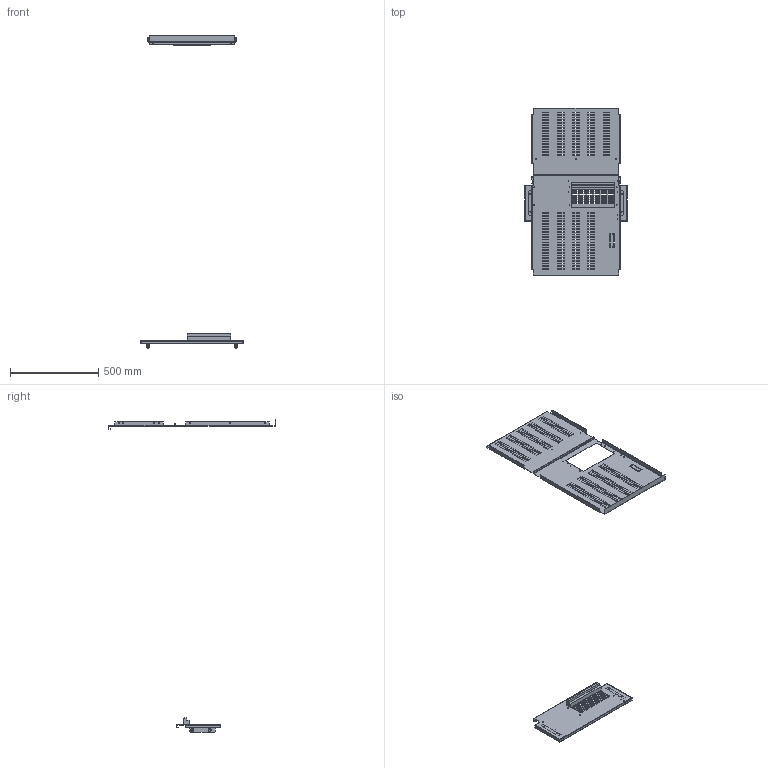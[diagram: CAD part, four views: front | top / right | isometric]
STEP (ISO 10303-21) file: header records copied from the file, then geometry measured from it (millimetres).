
FILE_DESCRIPTION(('CAx-IF Rec.Pracs.---Model Styling and Organization---1.2---2011-12-15','CAx-IF Rec.Pracs.---Geometric and Assembly Validation Properties---4.1---2014-06-16','CAx-IF Rec.Pracs.---PMI Polyline Presentation---2.0---2013-05-24'),'2;1');
FILE_NAME('R5M2UBFRNG12 (2200x600x(400+800)) (7).stp','2021-05-05T12:07:11+03:00',(''),(''),'STEP Interface 4.4 by CT CoreTechnologie','3D_Evolution4.4 by CT CoreTechnologie','');
FILE_SCHEMA(('AUTOMOTIVE_DESIGN { 1 0 10303 214 1 1 1 1 }'));
Length unit declared in the file: millimetre
Products named in the file (9): R5M2UBFR10 (2200õ600õ; RB.0837.00.00.0_-01; RB.0792.00.00.0_-00; RB.0834.00.00.1_-00; M8x16-DIN 6921_thread; M8-DIN 6923 (CM100800)_thread; RB.0836.00.00.0; RB.0835.00.00.0_-00; RB.0837.00.00.0_-00
Assembly tree (14 placements, depth 2):
  R5M2UBFR10 (2200õ600õ
    RB.0837.00.00.0_-01
    RB.0792.00.00.0_-00
    RB.0834.00.00.1_-00
    M8x16-DIN 6921_thread  x4
    M8-DIN 6923 (CM100800)_thread  x4
    RB.0836.00.00.0
    RB.0835.00.00.0_-00
    RB.0837.00.00.0_-00
Bounding box: 580 x 945.5 x 1767 mm (x, y, z)
Surface area: 1417717.3 mm2 (no closed solid volume)
Topology: 0 solids, 14 shells, 1592 faces, 4335 edges, 2769 vertices
Faces by surface type: plane 1124, bspline 264, cylinder 204
Entity records: 44715 total; most frequent: CARTESIAN_POINT 9003, ORIENTED_EDGE 7478, DIRECTION 6561, EDGE_CURVE 3741, VECTOR 3307, LINE 3307, VERTEX_POINT 2445, EDGE_LOOP 1860
